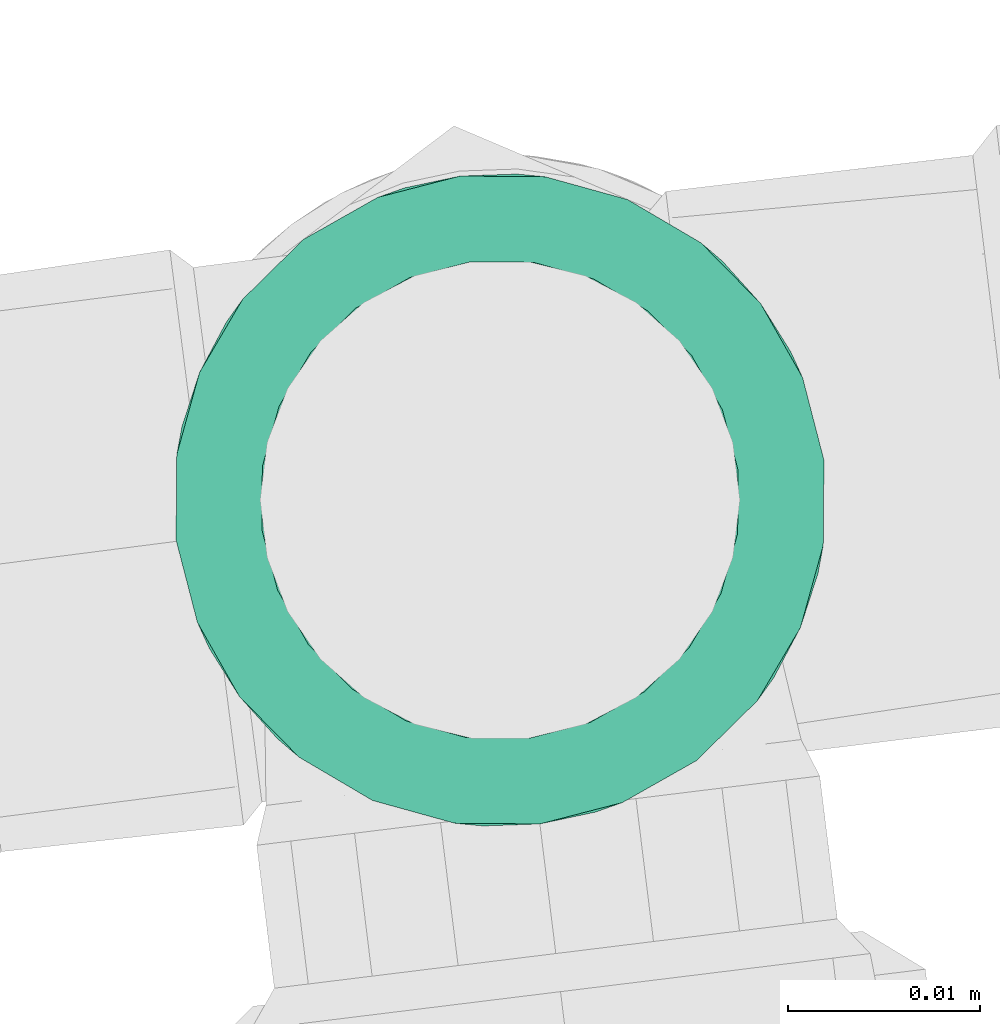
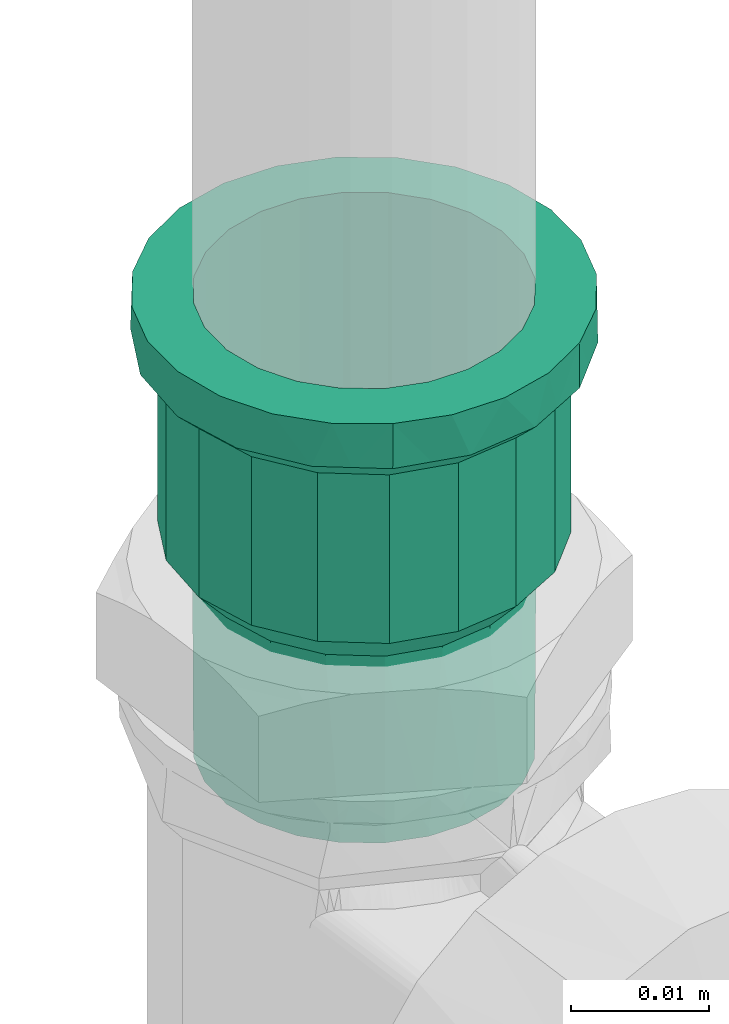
# One storey, part 65 of 97: 1 flow fitting.
"""IFC2X3 building model written with IfcOpenShell, lengths in centimetres."""

import ifcopenshell
import ifcopenshell.guid

model = None  # the IFC model being written
_history = None  # IfcOwnerHistory: only IFC2X3 demands one
_inside = {}  # id of a spatial element -> (the spatial element, [elements in it])
_under = {}  # id of a project, library or spatial element -> (it, [spatial elements below it])
_declared = {}  # id of a project -> (the project, [libraries it declares])
_typed = {}  # id of a type object -> (the type object, [elements of that type])
_made_of = {}  # id of a material, layer set ... -> (it, [elements and type objects made of it])


def new_model(schema):
    """Start an empty IFC model of exactly this schema.

    Asked for "IFC4X3", IfcOpenShell would pick the latest addendum, in which some entities
    have other attributes; the version numbers below select the first issue.
    IFC2X3 requires an IfcOwnerHistory on every rooted entity: one is made here for all.
    """
    global model, _history
    if schema == "IFC4X3":
        model = ifcopenshell.file(schema_version=(4, 3, 0, 0))
    else:
        model = ifcopenshell.file(schema=schema)
    _inside.clear()
    _under.clear()
    _declared.clear()
    _typed.clear()
    _made_of.clear()
    _history = None
    if model.schema == "IFC2X3":
        org = make("IfcOrganization", Name="unknown")
        user = make(
            "IfcPersonAndOrganization",
            ThePerson=make("IfcPerson", FamilyName="unknown"),
            TheOrganization=org,
        )
        app = make(
            "IfcApplication",
            ApplicationDeveloper=org,
            Version="unknown",
            ApplicationFullName="unknown",
            ApplicationIdentifier="unknown",
        )
        _history = make(
            "IfcOwnerHistory",
            OwningUser=user,
            OwningApplication=app,
            ChangeAction="ADDED",
            CreationDate=0,
        )
    return model


def make(cls, **values):
    """One entity of the class cls with the attributes given. An attribute that is None is left unset."""
    return model.create_entity(
        cls, **{name: value for name, value in values.items() if value is not None}
    )


def entity(cls, *values):
    """Any entity or typed value of the class cls, its attributes in the order of the schema. None: left unset."""
    e = model.create_entity(cls)
    for i, value in enumerate(values):
        if value is not None:
            e[i] = value
    return e


def rooted(cls, **values):
    """An entity with a GlobalId (a new one), such as an element, a storey or a relation."""
    return make(cls, GlobalId=ifcopenshell.guid.new(), OwnerHistory=_history, **values)


def si_unit(unit_type, name, prefix=None):
    """IfcSIUnit, for example si_unit("LENGTHUNIT", "METRE", prefix="MILLI")."""
    return make("IfcSIUnit", UnitType=unit_type, Prefix=prefix, Name=name)


def converted_unit(unit_type, name, factor, base, dimensions=None, offset=None):
    """IfcConversionBasedUnit, such as the inch: factor (a typed value) times the base unit."""
    return make(
        "IfcConversionBasedUnit"
        if offset is None
        else "IfcConversionBasedUnitWithOffset",
        ConversionOffset=offset,
        Dimensions=None
        if dimensions is None
        else entity("IfcDimensionalExponents", *dimensions),
        UnitType=unit_type,
        Name=name,
        ConversionFactor=make(
            "IfcMeasureWithUnit", ValueComponent=factor, UnitComponent=base
        ),
    )


def derived_unit(unit_type, elements):
    """IfcDerivedUnit: a product of units, each with its exponent."""
    return make(
        "IfcDerivedUnit",
        Elements=[
            make("IfcDerivedUnitElement", Unit=unit, Exponent=power)
            for unit, power in elements
        ],
        UnitType=unit_type,
    )


def assignment(units):
    """IfcUnitAssignment: the units of a project."""
    return None if units is None else make("IfcUnitAssignment", Units=units)


def point(xyz):
    """IfcCartesianPoint."""
    return None if xyz is None else make("IfcCartesianPoint", Coordinates=xyz)


def direction(xyz):
    """IfcDirection."""
    return None if xyz is None else make("IfcDirection", DirectionRatios=xyz)


def frame(location, z_axis=None, x_axis=None):
    """IfcAxis2Placement3D, a coordinate frame: its origin and axes. An axis left out is left unset."""
    return make(
        "IfcAxis2Placement3D",
        Location=point(location),
        Axis=direction(z_axis),
        RefDirection=direction(x_axis),
    )


def origin():
    """The frame at (0, 0, 0) with its axes left unset."""
    return frame((0.0, 0.0, 0.0))


def place(relative_to, where):
    """IfcLocalPlacement: puts the frame where relative to a parent placement (None: the world)."""
    return make(
        "IfcLocalPlacement", PlacementRelTo=relative_to, RelativePlacement=where
    )


def context(
    kind, dimensions, precision=None, world=None, true_north=None, identifier=None
):
    """IfcGeometricRepresentationContext, for example the 3D "Model" context."""
    return make(
        "IfcGeometricRepresentationContext",
        ContextIdentifier=identifier,
        ContextType=kind,
        CoordinateSpaceDimension=dimensions,
        Precision=precision,
        WorldCoordinateSystem=world,
        TrueNorth=true_north,
    )


def subcontext(parent, identifier, kind, view, scale=None):
    """IfcGeometricRepresentationSubContext, for example "Body" below "Model"."""
    return make(
        "IfcGeometricRepresentationSubContext",
        ContextIdentifier=identifier,
        ContextType=kind,
        ParentContext=parent,
        TargetScale=scale,
        TargetView=view,
    )


def project(units=None, contexts=None):
    """IfcProject with its units and contexts."""
    return rooted(
        "IfcProject",
        Name="project",
        RepresentationContexts=contexts,
        UnitsInContext=assignment(units),
    )


def spatial(cls, under=None, at=None, **own):
    """A site, building, storey or space (cls), placed at a placement, below another one or the project."""
    s = rooted(cls, ObjectPlacement=at, **own)
    if under is not None:
        _under.setdefault(under.id(), (under, []))[1].append(s)
    return s


def faces_of(points, faces, orient=None, outer=None):
    """IfcFace entities. A face is a list of loops; a loop is a list of indices into points, from 0.

    orient and outer hold one flag for each loop. By default every Orientation is true, the
    first loop of a face is its IfcFaceOuterBound and the others are IfcFaceBound.
    """
    made = []
    for i, loops in enumerate(faces):
        bounds = []
        for j, loop in enumerate(loops):
            is_outer = j == 0 if outer is None else outer[i][j]
            bounds.append(
                make(
                    "IfcFaceOuterBound" if is_outer else "IfcFaceBound",
                    Bound=make("IfcPolyLoop", Polygon=[points[k] for k in loop]),
                    Orientation=True if orient is None else orient[i][j],
                )
            )
        made.append(make("IfcFace", Bounds=bounds))
    return made


def faceted_brep(points, faces, orient=None, outer=None, voids=None):
    """IfcFacetedBrep: a solid bounded by flat faces; with voids (closed shells), ...WithVoids."""
    shared = [point(p) for p in points]
    hull = make("IfcClosedShell", CfsFaces=faces_of(shared, faces, orient, outer))
    if voids is None:
        return make("IfcFacetedBrep", Outer=hull)
    return make(
        "IfcFacetedBrepWithVoids",
        Outer=hull,
        Voids=[
            make(cls, CfsFaces=faces_of(shared, fs, o, b)) for cls, fs, o, b in voids
        ],
    )


def shape(context_of_items, identifier, shape_type, items):
    """IfcShapeRepresentation: the items that make up one representation, for example the "Body"."""
    return make(
        "IfcShapeRepresentation",
        ContextOfItems=context_of_items,
        RepresentationIdentifier=identifier,
        RepresentationType=shape_type,
        Items=items,
    )


def source(mapping_origin, context_of_items, identifier, shape_type, items):
    """IfcRepresentationMap: a shape defined once, which mapped items show again and again."""
    return make(
        "IfcRepresentationMap",
        MappingOrigin=mapping_origin,
        MappedRepresentation=shape(context_of_items, identifier, shape_type, items),
    )


def transform(
    local_origin,
    x_axis=None,
    y_axis=None,
    z_axis=None,
    scale=None,
    scale2=None,
    scale3=None,
    uniform=True,
):
    """IfcCartesianTransformationOperator3D, or its non-uniform kind. x_axis, y_axis, z_axis: its Axis1, 2, 3."""
    if uniform:
        return make(
            "IfcCartesianTransformationOperator3D",
            Axis1=direction(x_axis),
            Axis2=direction(y_axis),
            LocalOrigin=point(local_origin),
            Scale=scale,
            Axis3=direction(z_axis),
        )
    return make(
        "IfcCartesianTransformationOperator3DnonUniform",
        Axis1=direction(x_axis),
        Axis2=direction(y_axis),
        LocalOrigin=point(local_origin),
        Scale=scale,
        Axis3=direction(z_axis),
        Scale2=scale2,
        Scale3=scale3,
    )


def mapped(mapping_source, mapping_target):
    """IfcMappedItem: shows the shape of a source again, moved by a transform."""
    return make(
        "IfcMappedItem", MappingSource=mapping_source, MappingTarget=mapping_target
    )


def material(Name=None, Category=None):
    """IfcMaterial."""
    return make("IfcMaterial", Name=Name, Category=Category)


def made_of(thing, what):
    """Note that an element or type object is made of a material, layer set ...; save() writes the relation."""
    if what is not None:
        _made_of.setdefault(what.id(), (what, []))[1].append(thing)
    return thing


def type_object(cls, material=None, **own):
    """A type object (cls), such as IfcWallType, which elements share."""
    return made_of(rooted(cls, **own), material)


def type_shapes(of_type, sources):
    """Give a type object the sources (RepresentationMaps) that its elements show as mapped items."""
    of_type.RepresentationMaps = sources


def element(
    cls,
    number,
    at=None,
    inside=None,
    cuts=None,
    type_object=None,
    material=None,
    context=None,
    identifier="Body",
    shape_type=None,
    held_by="IfcProductDefinitionShape",
    body=None,
    shapes=None,
    **own,
):
    """One element of the class cls, such as IfcWall. Its Tag is "e" and its number.

    at: its placement. inside: the storey or other place that contains it. cuts: it is an
    opening in that element (IfcRelVoidsElement). A single representation is given by context,
    identifier, shape_type and body (its items); several are given by shapes. held_by: the class
    of the entity that holds the representations. save() writes the other relations.
    """
    e = rooted(cls, Tag="e%d" % number, ObjectPlacement=at, **own)
    if body is not None:
        shapes = [shape(context, identifier, shape_type, body)]
    if shapes is not None:
        e.Representation = make(held_by, Representations=shapes)
    if inside is not None:
        _inside.setdefault(inside.id(), (inside, []))[1].append(e)
    if cuts is not None:
        rooted(
            "IfcRelVoidsElement", RelatingBuildingElement=cuts, RelatedOpeningElement=e
        )
    if type_object is not None:
        _typed.setdefault(type_object.id(), (type_object, []))[1].append(e)
    return made_of(e, material)


def aggregate(whole, parts):
    """IfcRelAggregates: a whole, such as a stair, and the parts it consists of."""
    return rooted("IfcRelAggregates", RelatingObject=whole, RelatedObjects=parts)


def save(model, path):
    """Write the relations noted so far, then the file.

    IfcRelAggregates (storeys below a building ...), IfcRelContainedInSpatialStructure (elements
    in a storey), IfcRelDefinesByType, IfcRelAssociatesMaterial and IfcRelDeclares: one each for
    every whole, place, type object, material and project.
    """
    for whole, parts in _under.values():
        aggregate(whole, parts)
    for where, things in _inside.values():
        rooted(
            "IfcRelContainedInSpatialStructure",
            RelatedElements=things,
            RelatingStructure=where,
        )
    for kind, things in _typed.values():
        rooted("IfcRelDefinesByType", RelatedObjects=things, RelatingType=kind)
    for what, things in _made_of.values():
        rooted("IfcRelAssociatesMaterial", RelatedObjects=things, RelatingMaterial=what)
    for by, libraries in _declared.values():
        rooted("IfcRelDeclares", RelatingContext=by, RelatedDefinitions=libraries)
    model.write(path)


model = new_model("IFC2X3")

# Units and contexts
model_context = context("Model", 3, precision=0.001, world=origin(), true_north=direction((6.12303176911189e-17, 1.0)))
body_context = subcontext(model_context, "Body", "Model", "MODEL_VIEW")
ifc_project = project(units=[si_unit("LENGTHUNIT", "METRE", prefix="CENTI"), si_unit("AREAUNIT", "SQUARE_METRE"), si_unit("VOLUMEUNIT", "CUBIC_METRE"), converted_unit("PLANEANGLEUNIT", "DEGREE", entity("IfcRatioMeasure", 0.0174532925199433), si_unit("PLANEANGLEUNIT", "RADIAN"), dimensions=[0, 0, 0, 0, 0, 0, 0]), si_unit("MASSUNIT", "GRAM", prefix="KILO"), derived_unit("MASSDENSITYUNIT", [(si_unit("MASSUNIT", "GRAM", prefix="KILO"), 1), (si_unit("LENGTHUNIT", "METRE"), -3)]), derived_unit("MOMENTOFINERTIAUNIT", [(si_unit("LENGTHUNIT", "METRE"), 4)]), si_unit("TIMEUNIT", "SECOND"), si_unit("FREQUENCYUNIT", "HERTZ"), si_unit("THERMODYNAMICTEMPERATUREUNIT", "DEGREE_CELSIUS"), derived_unit("THERMALTRANSMITTANCEUNIT", [(si_unit("MASSUNIT", "GRAM", prefix="KILO"), 1), (si_unit("THERMODYNAMICTEMPERATUREUNIT", "KELVIN"), -1), (si_unit("TIMEUNIT", "SECOND"), -3)]), derived_unit("VOLUMETRICFLOWRATEUNIT", [(si_unit("LENGTHUNIT", "METRE"), 3), (si_unit("TIMEUNIT", "SECOND"), -1)]), si_unit("ELECTRICCURRENTUNIT", "AMPERE"), si_unit("ELECTRICVOLTAGEUNIT", "VOLT"), si_unit("POWERUNIT", "WATT"), si_unit("FORCEUNIT", "NEWTON", prefix="KILO"), si_unit("ILLUMINANCEUNIT", "LUX"), si_unit("LUMINOUSFLUXUNIT", "LUMEN"), si_unit("LUMINOUSINTENSITYUNIT", "CANDELA"), derived_unit("USERDEFINED", [(si_unit("MASSUNIT", "GRAM", prefix="KILO"), -1), (si_unit("LENGTHUNIT", "METRE"), -2), (si_unit("TIMEUNIT", "SECOND"), 3), (si_unit("LUMINOUSFLUXUNIT", "LUMEN"), 1)]), derived_unit("LINEARVELOCITYUNIT", [(si_unit("LENGTHUNIT", "METRE"), 1), (si_unit("TIMEUNIT", "SECOND"), -1)]), si_unit("PRESSUREUNIT", "PASCAL"), derived_unit("USERDEFINED", [(si_unit("LENGTHUNIT", "METRE"), -2), (si_unit("MASSUNIT", "GRAM", prefix="KILO"), 1), (si_unit("TIMEUNIT", "SECOND"), -2)]), derived_unit("LINEARFORCEUNIT", [(si_unit("MASSUNIT", "GRAM", prefix="KILO"), 1), (si_unit("LENGTHUNIT", "METRE"), 1), (si_unit("TIMEUNIT", "SECOND"), -2), (si_unit("LENGTHUNIT", "METRE"), -1)]), derived_unit("PLANARFORCEUNIT", [(si_unit("MASSUNIT", "GRAM", prefix="KILO"), 1), (si_unit("LENGTHUNIT", "METRE"), 1), (si_unit("TIMEUNIT", "SECOND"), -2), (si_unit("LENGTHUNIT", "METRE"), -2)])], contexts=[model_context])

# Site, building, storey
site_placement = place(None, origin())
site = spatial("IfcSite", under=ifc_project, at=site_placement, Name="Default", CompositionType="ELEMENT")
building_placement = place(site_placement, origin())
building = spatial("IfcBuilding", under=site, at=building_placement, Name="HIDROSSANITÁRIO", CompositionType="ELEMENT")
storey_placement = place(building_placement, frame((0.0, 0.0, -260.0)))
storey = spatial("IfcBuildingStorey", under=building, at=storey_placement, Name="TÉRREO-HID", CompositionType="ELEMENT", Elevation=-260.0)

# Flow fitting
ifc_material = material(Name="PVC Marrom")
pipe_fitting_type = type_object("IfcPipeFittingType", Name="PVC Marrom Soldável_Adaptador Curto com Bolsa e Rosca Aninhado:Adaptador", PredefinedType="NOTDEFINED", material=ifc_material)
shared_shape = source(origin(), body_context, "Body", "Brep", [
    faceted_brep([(0.0, -0.850000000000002, -1.47224318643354), (0.0, -1.20208152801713, -1.20208152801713), (0.0, -0.624999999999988, -1.08253175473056), (0.0, -0.323523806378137, -1.20740728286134), (0.0, -0.439992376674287, -1.64207390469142), (0.0, -0.883883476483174, -0.883883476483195), (0.0, -1.47224318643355, -0.849999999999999), (0.0, -1.08253175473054, -0.625000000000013), (0.0, -1.20740728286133, -0.323523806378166), (0.0, -1.64207390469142, -0.439992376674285), (0.0, -1.25, 0.0), (0.0, -1.7, 0.0), (0.0, -1.20740728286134, 0.323523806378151), (0.0, -1.64207390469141, 0.439992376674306), (0.0, -1.08253175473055, 0.625), (0.0, -1.47224318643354, 0.850000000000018), (0.0, -0.883883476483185, 0.883883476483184), (0.0, -1.20208152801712, 1.20208152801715), (0.0, -0.625000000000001, 1.08253175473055), (0.0, -0.849999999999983, 1.47224318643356), (0.0, -0.323523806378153, 1.20740728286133), (0.0, -0.439992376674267, 1.64207390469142), (0.0, 0.0, 1.25), (0.0, 0.0, 1.7), (0.0, 0.323523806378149, 1.20740728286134), (0.0, 0.439992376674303, 1.64207390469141), (0.0, 0.624999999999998, 1.08253175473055), (0.0, 0.850000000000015, 1.47224318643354), (0.0, 0.883883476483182, 0.883883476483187), (0.0, 1.20208152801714, 1.20208152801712), (0.0, 1.08253175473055, 0.625000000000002), (0.0, 1.47224318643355, 0.849999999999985), (0.0, 1.64207390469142, 0.439992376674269), (0.0, 1.20740728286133, 0.323523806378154), (0.0, 1.7, 0.0), (0.0, 1.25, 0.0), (0.0, 1.64207390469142, -0.43999237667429), (0.0, 1.20740728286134, -0.323523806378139), (0.0, 1.47224318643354, -0.850000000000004), (0.0, 1.08253175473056, -0.624999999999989), (0.0, 1.20208152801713, -1.20208152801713), (0.0, 0.883883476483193, -0.883883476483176), (0.0, 0.849999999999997, -1.47224318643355), (0.0, 0.625000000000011, -1.08253175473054), (0.0, 0.439992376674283, -1.64207390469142), (0.0, 0.323523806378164, -1.20740728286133), (0.0, 0.0, -1.7), (0.0, 0.0, -1.25), (0.399999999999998, 1.59746124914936, 0.581478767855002), (0.399999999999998, 1.64873062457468, 0.290739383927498), (0.399999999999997, 1.07604576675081, 1.28256289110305), (0.399999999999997, 1.30221463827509, 1.09281152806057), (0.399999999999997, 1.44983794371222, 0.837145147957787), (0.399999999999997, 0.57244607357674, 1.57326016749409), (0.399999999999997, 0.295015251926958, 1.67420608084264), (0.399999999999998, 1.659968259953, 0.227012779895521), (0.399999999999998, 1.7, 0.0), (0.399999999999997, 0.849876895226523, 1.47231425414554), (0.399999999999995, -0.850246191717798, 1.47210102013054), (0.399999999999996, -0.572840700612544, 1.57311652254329), (0.399999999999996, -0.295435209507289, 1.67413202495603), (0.399999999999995, -1.30248872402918, 1.09248483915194), (0.399999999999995, -1.07636745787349, 1.28229292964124), (0.399999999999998, -1.7, 0.0), (0.399999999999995, -1.5976070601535, 0.581078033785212), (0.399999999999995, -1.45004789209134, 0.836781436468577), (0.399999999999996, -0.000209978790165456, 1.67416905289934), (0.400000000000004, -1.59760706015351, -0.581078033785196), (0.400000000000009, -1.0763674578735, -1.28229292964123), (0.400000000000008, -1.30248872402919, -1.09248483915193), (0.400000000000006, -1.45004789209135, -0.836781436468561), (0.40000000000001, -0.572840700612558, -1.57311652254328), (0.400000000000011, -0.295435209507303, -1.67413202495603), (0.40000000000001, -0.850246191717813, -1.47210102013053), (0.4, 1.64873062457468, -0.290739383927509), (0.400000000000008, 0.849876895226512, -1.47231425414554), (0.400000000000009, 0.572446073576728, -1.57326016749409), (0.40000000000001, 0.295015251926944, -1.67420608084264), (0.400000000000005, 1.30221463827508, -1.09281152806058), (0.400000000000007, 1.0760457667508, -1.28256289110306), (0.400000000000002, 1.59746124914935, -0.581478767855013), (0.400000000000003, 1.44983794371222, -0.837145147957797), (0.40000000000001, -0.000209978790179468, -1.67416905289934), (0.399999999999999, 1.65996825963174, -0.227012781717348), (2.085, 1.45359735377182, 0.29149513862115), (2.085, 1.45961152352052, 0.257389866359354), (2.085, 1.505, 0.0), (0.590000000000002, 1.505, 0.0), (0.590000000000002, 1.45961152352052, 0.257389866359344), (0.590000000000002, 1.41422304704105, 0.514779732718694), (2.085, 1.41422304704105, 0.514779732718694), (2.08499999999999, 0.952616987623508, 1.13544538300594), (2.08499999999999, 1.15284295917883, 0.967459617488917), (0.590000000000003, 1.15284295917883, 0.967459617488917), (0.590000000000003, 0.952616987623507, 1.13544538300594), (0.590000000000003, 0.752391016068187, 1.30343114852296), (2.08499999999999, 0.752391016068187, 1.30343114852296), (2.085, 1.28353300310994, 0.741119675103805), (0.590000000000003, 1.28353300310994, 0.741119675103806), (2.08499999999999, 0.261175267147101, 1.48216479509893), (2.08499999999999, 0.506783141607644, 1.39279797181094), (0.590000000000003, 0.506783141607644, 1.39279797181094), (0.590000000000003, 0.261175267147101, 1.48216479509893), (2.08499999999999, -0.261547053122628, 1.48209923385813), (2.08499999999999, -0.000185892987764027, 1.48213201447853), (0.590000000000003, -0.000185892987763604, 1.48213201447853), (0.590000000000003, -0.261547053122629, 1.48209923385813), (2.08499999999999, -0.507132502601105, 1.39267080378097), (0.590000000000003, -0.507132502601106, 1.39267080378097), (0.590000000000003, -0.752717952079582, 1.3032423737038), (2.08499999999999, -0.75271795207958, 1.3032423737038), (0.590000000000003, -0.952901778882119, 1.1352063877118), (0.590000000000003, -1.15308560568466, 0.967170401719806), (2.08499999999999, -1.15308560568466, 0.967170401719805), (2.08499999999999, -0.952901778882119, 1.1352063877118), (2.085, -1.28371886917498, 0.740797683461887), (0.590000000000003, -1.28371886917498, 0.740797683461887), (0.590000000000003, -1.4143521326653, 0.514424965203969), (2.085, -1.4143521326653, 0.514424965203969), (0.590000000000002, -1.505, 0.0), (2.085, -1.505, 0.0), (2.08500000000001, -1.41435213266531, -0.514424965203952), (0.590000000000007, -1.41435213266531, -0.514424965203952), (2.08500000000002, -0.752717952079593, -1.3032423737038), (2.08500000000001, -0.95290177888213, -1.13520638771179), (2.08500000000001, -1.15308560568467, -0.967170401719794), (0.59000000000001, -1.15308560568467, -0.967170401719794), (0.590000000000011, -0.95290177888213, -1.13520638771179), (0.590000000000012, -0.752717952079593, -1.3032423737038), (0.590000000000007, 1.28353300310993, -0.741119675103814), (0.590000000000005, 1.41422304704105, -0.514779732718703), (2.08500000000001, 1.41422304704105, -0.514779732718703), (2.08500000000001, 1.28353300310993, -0.741119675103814), (2.08500000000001, 1.15284295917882, -0.967459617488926), (0.590000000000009, 1.15284295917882, -0.967459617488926), (0.590000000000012, 0.506783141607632, -1.39279797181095), (0.590000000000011, 0.752391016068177, -1.30343114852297), (2.08500000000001, 0.752391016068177, -1.30343114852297), (2.08500000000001, 0.506783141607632, -1.39279797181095), (2.08500000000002, 0.261175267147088, -1.48216479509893), (0.590000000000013, 0.261175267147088, -1.48216479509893), (2.08500000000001, -1.28371886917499, -0.740797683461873), (0.590000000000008, -1.28371886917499, -0.740797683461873), (2.08500000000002, -0.261547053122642, -1.48209923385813), (2.08500000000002, -0.507132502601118, -1.39267080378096), (0.590000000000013, -0.507132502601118, -1.39267080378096), (0.590000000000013, -0.261547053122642, -1.48209923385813), (0.590000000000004, 1.45961152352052, -0.257389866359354), (2.085, 1.46677519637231, -0.216765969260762), (2.085, 1.45359734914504, -0.291495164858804), (0.59000000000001, 0.952616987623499, -1.13544538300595), (2.08500000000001, 0.952616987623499, -1.13544538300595), (2.08500000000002, -0.000185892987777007, -1.48213201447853), (0.590000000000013, -0.000185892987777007, -1.48213201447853), (4.03, 0.0, -1.25), (4.03, 0.323523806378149, -1.20740728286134), (4.03, 0.624999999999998, -1.08253175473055), (4.03, 0.883883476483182, -0.883883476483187), (4.03, 1.08253175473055, -0.625000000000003), (4.03, 1.20740728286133, -0.323523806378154), (4.03, 1.25, 0.0), (4.03, 1.20740728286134, 0.323523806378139), (4.03, 1.08253175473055, 0.624999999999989), (4.03, 0.883883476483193, 0.883883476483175), (4.03, 0.625000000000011, 1.08253175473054), (4.03, 0.323523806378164, 1.20740728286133), (4.03, 0.0, 1.25), (4.03, -0.323523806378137, 1.20740728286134), (4.03, -0.624999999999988, 1.08253175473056), (4.03, -0.883883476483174, 0.883883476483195), (4.03, -1.08253175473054, 0.625000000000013), (4.03, -1.20740728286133, 0.323523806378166), (4.03, -1.25, 0.0), (4.03, -1.20740728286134, -0.323523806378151), (4.03, -1.08253175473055, -0.624999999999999), (4.03, -0.883883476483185, -0.883883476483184), (4.03, -0.625000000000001, -1.08253175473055), (4.03, -0.323523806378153, -1.20740728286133), (2.375, 1.25, 0.0), (2.37499999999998, 0.957510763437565, 0.803537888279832), (2.37499999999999, 1.17460385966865, 0.427557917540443), (2.37499999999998, 0.624909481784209, 1.08258401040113), (2.37499999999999, 1.06605731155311, 0.615547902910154), (2.375, 1.21825182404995, 0.180038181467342), (2.37499999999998, 0.420916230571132, 1.15680894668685), (2.37499999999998, 0.216922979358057, 1.23103388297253), (2.37499999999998, 0.791210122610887, 0.943060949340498), (2.37499999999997, -0.217231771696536, 1.23097943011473), (2.37499999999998, -0.625181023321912, 1.08242722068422), (2.37499999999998, -0.957712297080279, 0.803297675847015), (2.37499999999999, -1.17471107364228, 0.427263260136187), (2.37499999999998, -0.791446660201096, 0.94286244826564), (2.37499999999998, -0.421206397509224, 1.1567033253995), (2.375, -1.25, 0.0), (2.37499999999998, -1.06621168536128, 0.615280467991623), (2.37499999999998, -0.000154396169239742, 1.23100665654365), (2.37500000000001, -0.957712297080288, -0.803297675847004), (2.375, -1.17471107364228, -0.427263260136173), (2.37500000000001, -0.625181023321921, -1.08242722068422), (2.37500000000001, -1.06621168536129, -0.615280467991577), (2.37500000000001, -0.421206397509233, -1.15670332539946), (2.37500000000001, -0.217231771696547, -1.23097943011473), (2.37500000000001, -0.791446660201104, -0.942862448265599), (2.37500000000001, 0.216922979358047, -1.23103388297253), (2.37500000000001, 0.6249094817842, -1.08258401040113), (2.375, 0.957510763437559, -0.803537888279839), (2.375, 1.17460385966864, -0.427557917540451), (2.37500000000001, 0.79121012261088, -0.943060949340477), (2.37500000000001, 0.420916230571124, -1.15680894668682), (2.375, 1.21230192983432, -0.213778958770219), (2.375, 1.0660573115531, -0.615547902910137), (2.37500000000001, -0.00015439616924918, -1.23100665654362), (0.590000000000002, 1.20740728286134, -0.323523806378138), (2.085, 1.20740728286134, -0.323523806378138), (2.085, 1.25, 0.0), (0.590000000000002, 1.25, 0.0), (0.399999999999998, 1.25, 0.0), (0.399999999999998, 1.20740728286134, -0.323523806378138), (0.590000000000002, 1.08253175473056, -0.624999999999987), (2.085, 1.08253175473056, -0.624999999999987), (0.399999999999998, 1.08253175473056, -0.624999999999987), (2.085, 0.625000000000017, -1.08253175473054), (2.085, 0.883883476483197, -0.883883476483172), (0.590000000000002, 0.883883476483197, -0.883883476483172), (0.399999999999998, 0.883883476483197, -0.883883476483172), (0.399999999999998, 0.625000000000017, -1.08253175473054), (0.590000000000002, 0.625000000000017, -1.08253175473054), (2.085, 0.32352380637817, -1.20740728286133), (0.399999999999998, 0.32352380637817, -1.20740728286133), (0.590000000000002, 0.32352380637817, -1.20740728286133), (2.085, 0.0, -1.25), (0.399999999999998, 0.0, -1.25), (0.590000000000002, 0.0, -1.25), (0.590000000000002, -0.323523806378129, -1.20740728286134), (2.085, -0.323523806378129, -1.20740728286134), (0.399999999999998, -0.323523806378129, -1.20740728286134), (0.590000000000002, -0.624999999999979, -1.08253175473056), (2.085, -0.624999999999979, -1.08253175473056), (0.399999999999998, -0.624999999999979, -1.08253175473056), (2.085, -1.08253175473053, -0.625000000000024), (2.085, -0.883883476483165, -0.883883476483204), (0.590000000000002, -0.883883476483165, -0.883883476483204), (0.399999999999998, -0.883883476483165, -0.883883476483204), (0.399999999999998, -1.08253175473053, -0.625000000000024), (0.590000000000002, -1.08253175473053, -0.625000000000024), (2.085, -1.20740728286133, -0.323523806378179), (0.399999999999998, -1.20740728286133, -0.323523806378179), (0.590000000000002, -1.20740728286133, -0.323523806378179), (2.085, -1.25, 0.0), (0.399999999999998, -1.25, 0.0), (0.590000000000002, -1.25, 0.0), (0.590000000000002, -1.20740728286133, 0.323523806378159), (2.085, -1.20740728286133, 0.323523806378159), (0.399999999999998, -1.20740728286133, 0.323523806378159), (0.590000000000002, -1.08253175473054, 0.625000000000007), (2.085, -1.08253175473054, 0.625000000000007), (0.399999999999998, -1.08253175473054, 0.625000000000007), (2.085, -0.624999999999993, 1.08253175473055), (2.085, -0.883883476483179, 0.88388347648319), (0.590000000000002, -0.883883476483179, 0.88388347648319), (0.399999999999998, -0.883883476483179, 0.88388347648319), (0.399999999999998, -0.624999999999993, 1.08253175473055), (0.590000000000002, -0.624999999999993, 1.08253175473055), (2.085, -0.323523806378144, 1.20740728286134), (0.399999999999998, -0.323523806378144, 1.20740728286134), (0.590000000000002, -0.323523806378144, 1.20740728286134), (2.085, 0.0, 1.25), (0.399999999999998, 0.0, 1.25), (0.590000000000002, 0.0, 1.25), (0.590000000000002, 0.323523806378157, 1.20740728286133), (2.085, 0.323523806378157, 1.20740728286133), (0.399999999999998, 0.323523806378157, 1.20740728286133), (0.590000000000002, 0.625000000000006, 1.08253175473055), (2.085, 0.625000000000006, 1.08253175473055), (0.399999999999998, 0.625000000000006, 1.08253175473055), (2.085, 1.08253175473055, 0.624999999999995), (2.085, 0.883883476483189, 0.88388347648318), (0.590000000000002, 0.883883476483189, 0.88388347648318), (0.399999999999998, 0.883883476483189, 0.88388347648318), (0.399999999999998, 1.08253175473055, 0.624999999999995), (0.590000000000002, 1.08253175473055, 0.624999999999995), (2.085, 1.20740728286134, 0.323523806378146), (0.399999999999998, 1.20740728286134, 0.323523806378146), (0.590000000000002, 1.20740728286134, 0.323523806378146)], [[[0, 1, 2]], [[0, 2, 3]], [[3, 4, 0]], [[2, 1, 5]], [[6, 5, 1]], [[7, 5, 6]], [[8, 7, 6]], [[8, 6, 9]], [[8, 9, 10]], [[10, 9, 11]], [[12, 10, 11]], [[12, 11, 13]], [[14, 12, 13]], [[14, 13, 15]], [[16, 14, 15]], [[15, 17, 16]], [[17, 18, 16]], [[18, 17, 19]], [[18, 19, 20]], [[21, 20, 19]], [[20, 21, 22]], [[22, 21, 23]], [[23, 24, 22]], [[24, 23, 25]], [[24, 25, 26]], [[27, 26, 25]], [[27, 28, 26]], [[27, 29, 28]], [[30, 28, 29]], [[31, 30, 29]], [[32, 30, 31]], [[33, 30, 32]], [[33, 32, 34]], [[34, 35, 33]], [[36, 35, 34]], [[36, 37, 35]], [[37, 36, 38]], [[39, 37, 38]], [[39, 38, 40]], [[39, 40, 41]], [[40, 42, 41]], [[41, 42, 43]], [[43, 42, 44]], [[44, 45, 43]], [[46, 45, 44]], [[4, 47, 46]], [[45, 46, 47]], [[4, 3, 47]], [[32, 48, 49]], [[50, 51, 29]], [[52, 48, 31, 51]], [[53, 25, 54]], [[48, 32, 31]], [[34, 49, 55, 56]], [[27, 57, 50]], [[29, 27, 50]], [[29, 51, 31]], [[19, 58, 59]], [[21, 19, 59]], [[53, 57, 27]], [[25, 53, 27]], [[54, 25, 23]], [[32, 49, 34]], [[59, 60, 21]], [[61, 62, 17]], [[63, 64, 13]], [[65, 61, 15, 64]], [[11, 63, 13]], [[17, 62, 19]], [[66, 54, 23, 60]], [[21, 60, 23]], [[61, 17, 15]], [[19, 62, 58]], [[13, 64, 15]], [[67, 63, 9]], [[68, 69, 1]], [[70, 67, 6, 69]], [[71, 4, 72]], [[67, 9, 6]], [[63, 11, 9]], [[4, 71, 0]], [[0, 73, 68]], [[1, 69, 6]], [[36, 34, 74]], [[42, 75, 76]], [[71, 73, 0]], [[44, 42, 76]], [[72, 4, 46]], [[1, 0, 68]], [[76, 77, 44]], [[78, 79, 40]], [[74, 80, 36]], [[81, 78, 38, 80]], [[36, 80, 38]], [[40, 79, 42]], [[82, 72, 46, 77]], [[44, 77, 46]], [[78, 40, 38]], [[42, 79, 75]], [[34, 56, 83, 74]], [[84, 85, 86, 87, 88, 89, 90]], [[91, 92, 93, 94, 95, 96]], [[92, 97, 90, 89, 98, 93]], [[99, 100, 96, 95, 101, 102]], [[103, 104, 99, 102, 105, 106]], [[107, 103, 106, 108, 109, 110]], [[111, 112, 113, 114, 110, 109]], [[115, 113, 112, 116, 117, 118]], [[117, 119, 120, 118]], [[121, 120, 119, 122]], [[123, 124, 125, 126, 127, 128]], [[129, 130, 131, 132, 133, 134]], [[135, 136, 137, 138, 139, 140]], [[125, 141, 121, 122, 142, 126]], [[143, 144, 123, 128, 145, 146]], [[131, 130, 147, 87, 86, 148, 149]], [[150, 134, 133, 151, 137, 136]], [[139, 152, 143, 146, 153, 140]], [[154, 155, 156, 157, 158, 159, 160, 161, 162, 163, 164, 165, 166, 167, 168, 169, 170, 171, 172, 173, 174, 175, 176, 177]], [[161, 160, 178]], [[163, 162, 179]], [[180, 162, 161]], [[181, 164, 163]], [[162, 180, 182, 179]], [[161, 178, 183, 180]], [[165, 181, 184, 185]], [[163, 179, 186, 181]], [[166, 165, 185]], [[165, 164, 181]], [[166, 187, 167]], [[167, 188, 168]], [[170, 169, 189]], [[188, 169, 168]], [[171, 170, 190]], [[169, 188, 191, 189]], [[167, 187, 192, 188]], [[190, 193, 171]], [[170, 189, 194, 190]], [[193, 172, 171]], [[166, 185, 195, 187]], [[173, 172, 193]], [[175, 174, 196]], [[197, 174, 173]], [[198, 176, 175]], [[174, 197, 199, 196]], [[173, 193, 197]], [[177, 198, 200, 201]], [[175, 196, 202, 198]], [[154, 177, 201]], [[177, 176, 198]], [[154, 203, 155]], [[155, 204, 156]], [[158, 157, 205]], [[204, 157, 156]], [[159, 158, 206]], [[157, 204, 207, 205]], [[155, 203, 208, 204]], [[159, 206, 209, 178]], [[158, 205, 210, 206]], [[178, 160, 159]], [[154, 201, 211, 203]], [[212, 213, 214, 215, 216, 35, 37, 217]], [[218, 219, 213, 212, 217, 37, 39, 220]], [[221, 222, 223, 224, 41, 43, 225, 226]], [[218, 220, 39, 41, 224, 223, 222, 219]], [[227, 221, 226, 225, 43, 45, 228, 229]], [[230, 227, 229, 228, 45, 47, 231, 232]], [[233, 234, 230, 232, 231, 47, 3, 235]], [[236, 237, 234, 233, 235, 3, 2, 238]], [[239, 240, 241, 242, 5, 7, 243, 244]], [[236, 238, 2, 5, 242, 241, 240, 237]], [[245, 239, 244, 243, 7, 8, 246, 247]], [[248, 245, 247, 246, 8, 10, 249, 250]], [[251, 252, 248, 250, 249, 10, 12, 253]], [[254, 255, 252, 251, 253, 12, 14, 256]], [[257, 258, 259, 260, 16, 18, 261, 262]], [[254, 256, 14, 16, 260, 259, 258, 255]], [[263, 257, 262, 261, 18, 20, 264, 265]], [[266, 263, 265, 264, 20, 22, 267, 268]], [[269, 270, 266, 268, 267, 22, 24, 271]], [[272, 273, 270, 269, 271, 24, 26, 274]], [[275, 276, 277, 278, 28, 30, 279, 280]], [[272, 274, 26, 28, 278, 277, 276, 273]], [[281, 275, 280, 279, 30, 33, 282, 283]], [[214, 281, 283, 282, 33, 35, 216, 215]], [[63, 67, 122, 119]], [[145, 128, 73, 71, 72, 146]], [[68, 73, 128, 127, 126, 69]], [[126, 142, 122, 67, 70, 69]], [[76, 75, 136, 135, 140, 77]], [[81, 80, 130, 129, 134, 78]], [[147, 130, 80, 74, 83, 56, 87]], [[140, 153, 146, 72, 82, 77]], [[134, 150, 136, 75, 79, 78]], [[89, 88, 87, 56, 55, 49, 48]], [[98, 89, 48, 52, 51, 93]], [[94, 93, 51, 50, 57, 95]], [[57, 53, 54, 102, 101, 95]], [[66, 60, 106, 105, 102, 54]], [[58, 109, 108, 106, 60, 59]], [[63, 119, 117, 64]], [[61, 65, 64, 117, 116, 112]], [[58, 62, 61, 112, 111, 109]], [[227, 230, 234, 237, 240, 239, 245, 248, 252, 255, 258, 257, 263, 266, 270, 273, 276, 275, 281, 214, 213, 219, 222, 221]], [[180, 183, 178, 86, 85, 84, 90]], [[100, 99, 185, 184, 181, 96]], [[181, 186, 179, 92, 91, 96]], [[179, 182, 180, 90, 97, 92]], [[104, 103, 187, 195, 185, 99]], [[115, 118, 190, 194, 189, 113]], [[107, 110, 188, 192, 187, 103]], [[118, 120, 193, 190]], [[189, 191, 188, 110, 114, 113]], [[120, 121, 197, 193]], [[200, 198, 123, 144, 143, 201]], [[124, 123, 198, 202, 196, 125]], [[196, 199, 197, 121, 141, 125]], [[138, 137, 204, 208, 203, 139]], [[132, 131, 206, 210, 205, 133]], [[209, 206, 131, 149, 148, 86, 178]], [[203, 211, 201, 143, 152, 139]], [[205, 207, 204, 137, 151, 133]]]),
])
type_shapes(pipe_fitting_type, [shared_shape])
flow_fitting_placement = place(storey_placement, frame((-1768.33138926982, 2878.4050435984, 185.475), z_axis=(0.122152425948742, -0.992511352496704, 0.0), x_axis=(0.0, 0.0, -1.0)))
element("IfcFlowFitting", 1, at=flow_fitting_placement, inside=storey, type_object=pipe_fitting_type, material=ifc_material, Name="PVC Marrom Soldável_Adaptador Curto com Bolsa e Rosca Aninhado:Adaptador", ObjectType="PVC Marrom Soldável_Adaptador Curto com Bolsa e Rosca Aninhado:Adaptador", context=body_context, shape_type="MappedRepresentation", body=[
    mapped(shared_shape, transform((0.0, 0.0, 0.0), scale=1.0)),
])

save(model, "model.ifc")
